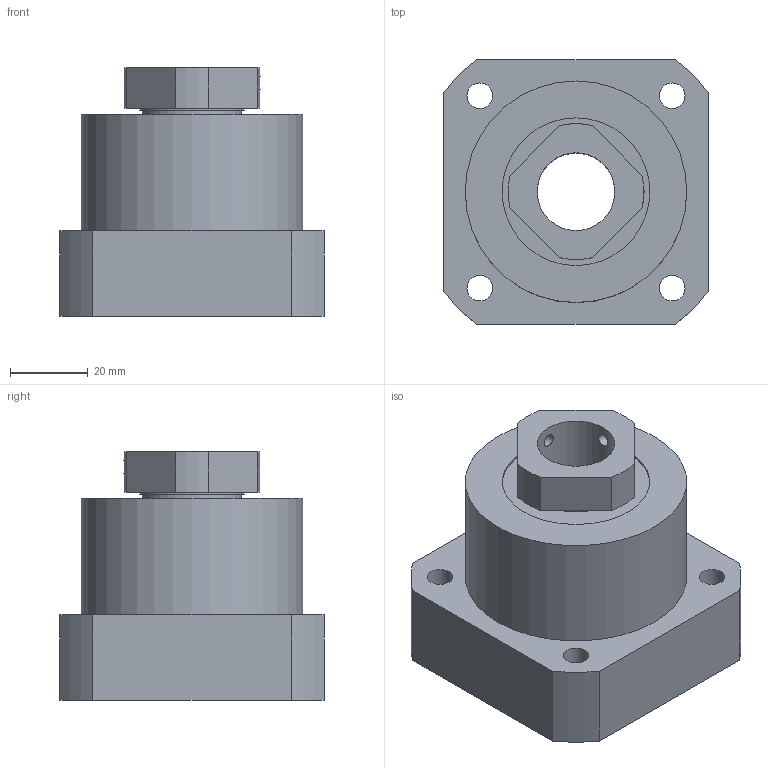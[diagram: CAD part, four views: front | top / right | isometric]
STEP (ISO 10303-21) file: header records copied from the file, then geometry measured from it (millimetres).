
FILE_DESCRIPTION(/* description */ (''),/* implementation_level */ '2;1');
FILE_NAME(/* name */ 'C:\Users\tenki620635\Desktop\官網\圖面\軸承座\3D\setp檔\FK20-Btype.stp',/* time_stamp */ '2020-12-18T19:54:33+08:00',/* author */ ('tenki620635'),/* organization */ (''),/* preprocessor_version */ 'ST-DEVELOPER v15.2',/* originating_system */ 'Autodesk Inventor 2014',/* authorisation */ '');
FILE_SCHEMA (('AUTOMOTIVE_DESIGN { 1 0 10303 214 3 1 1 }'));
Length unit declared in the file: millimetre
Products named in the file (1): FK20-Btype
Bounding box: 68 x 68 x 64 mm (x, y, z)
Volume: 156264.3 mm3; surface area: 27791.7 mm2
Topology: 1 solids, 1 shells, 46 faces, 106 edges, 72 vertices
Faces by surface type: cylinder 25, plane 21
Full cylindrical faces by diameter (mm): 3.242 x2, 6.6 x4, 11 x4, 20 x1, 25.5 x2, 27 x1, 38 x2, 57 x1
Entity records: 1375 total; most frequent: CARTESIAN_POINT 335, DIRECTION 218, ORIENTED_EDGE 168, AXIS2_PLACEMENT_3D 93, EDGE_LOOP 88, EDGE_CURVE 84, VERTEX_POINT 68, FACE_BOUND 52
